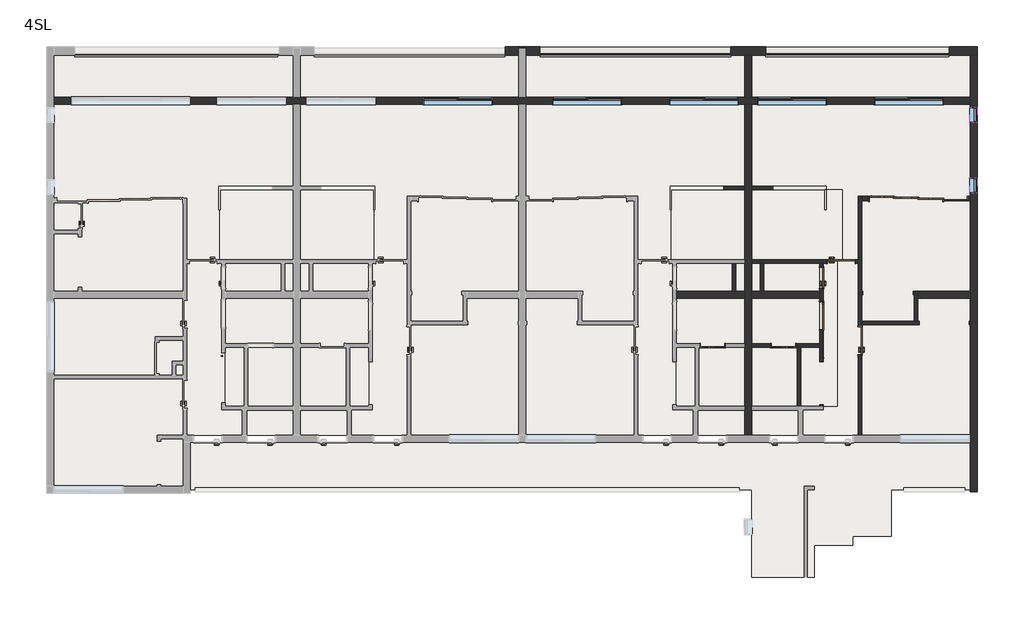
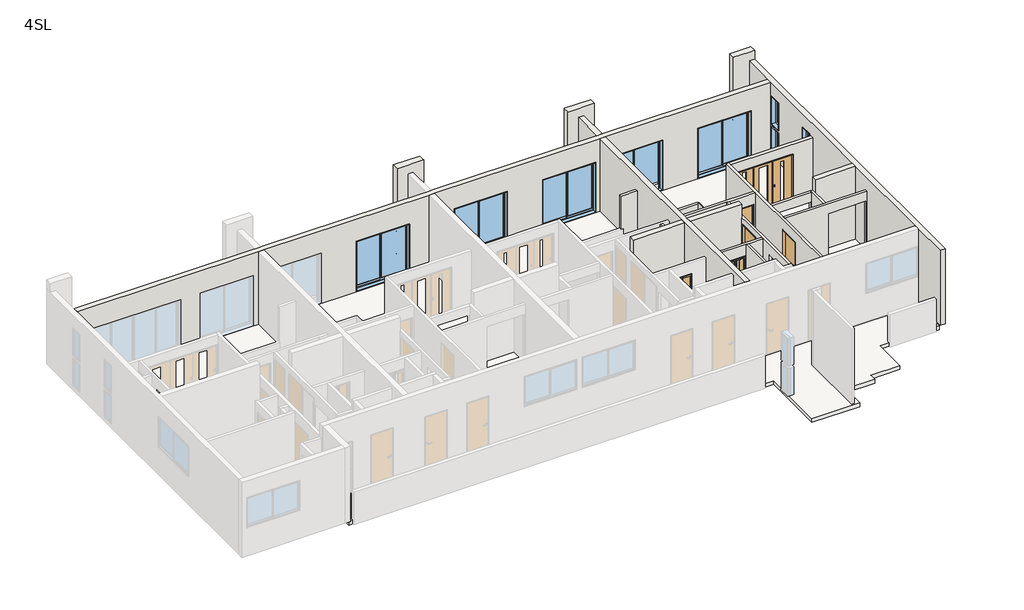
# One storey, part 3 of 3: 25 walls, 13 slabs, 9 windows, 7 doors, 4 railings, 2 plates.
"""IFC4 building model written with IfcOpenShell, lengths in millimetres."""

from ifc_helpers import new_model, si_unit, frame, origin, place, context, project, spatial, polyline, outline, extrude, faceted_brep, transform, mapped, element, save
from components import door_c7dcdbed, door_8f2de950, door_3b96e66a, door_6eb1cc95, door_aabc7979, door_3f60c47c, door_31a51f76, system_panel_37aab131, system_panel_3b8cd947, railing_b6dd94c7, railing_77e44f91, railing_64f1176f, railing_37b0c0b0, window_4c3e1407, window_5dc29a3f, window_ec430ee0, window_a2a98c4b, w0450_h1100_93ba837a, w0450_h1100_e5a89885

model = new_model("IFC4")

# Units and contexts
model_context = context("Model", 3, world=origin())
ifc_project = project(units=[si_unit("LENGTHUNIT", "METRE", prefix="MILLI")], contexts=[model_context])

# Site, building, storey
site = spatial("IfcSite", under=ifc_project)
building = spatial("IfcBuilding", under=site)
storey = spatial("IfcBuildingStorey", under=building, Name="4SL", Elevation=10000.0)

# Doors
placement = place(None, origin())
door_shape = door_c7dcdbed(model_context)
element("IfcDoor", 1, ObjectType="木製_片開き_フラッシュ : WD-2 w600h2000", at=placement, inside=storey, context=model_context, shape_type="MappedRepresentation", body=[
    mapped(door_shape, transform((11454.3805905, 3696.254513, 10210.0), x_axis=(0.0, 1.0, 0.0), y_axis=(-1.0, 0.0, 0.0), z_axis=(0.0, 0.0, 1.0))),
])
door_2_shape = door_8f2de950(model_context)
element("IfcDoor", 2, ObjectType="木製_片開き_フラッシュ : WD-1\u3000w800h2000", at=placement, inside=storey, context=model_context, shape_type="MappedRepresentation", body=[
    mapped(door_2_shape, transform((12554.3805905, 1900.2598658, 10060.0), x_axis=(0.0, 1.0, 0.0), y_axis=(-1.0, 0.0, 0.0), z_axis=(0.0, 0.0, 1.0))),
])
door_3_shape = door_3b96e66a(model_context)
element("IfcDoor", 3, ObjectType="木製_片開き_フラッシュ : WD-1\u3000w800h2000", at=placement, inside=storey, context=model_context, shape_type="MappedRepresentation", body=[
    mapped(door_3_shape, transform((12014.3805905, 4160.2598658, 10000.0), x_axis=(1.0, 0.0, 0.0), y_axis=(0.0, 1.0, 0.0), z_axis=(0.0, 0.0, 1.0))),
])
door_4_shape = door_6eb1cc95(model_context)
element("IfcDoor", 4, ObjectType="木製_折戸2枚_フラッシュ(UB) : UB-1 w600h2000", at=placement, inside=storey, context=model_context, shape_type="MappedRepresentation", body=[
    mapped(door_4_shape, transform((8344.3805905, 1760.2598658, 10000.0), x_axis=(1.0, 0.0, 0.0), y_axis=(0.0, 1.0, 0.0), z_axis=(0.0, 0.0, 1.0))),
])
door_5_shape = door_aabc7979(model_context)
element("IfcDoor", 5, ObjectType="木製_折戸2枚_フラッシュ(UB) : UB-1 w600h2000", at=placement, inside=storey, context=model_context, shape_type="MappedRepresentation", body=[
    mapped(door_5_shape, transform((10364.3805905, 1760.2598658, 10000.0), x_axis=(-1.0, 0.0, 0.0), y_axis=(0.0, -1.0, 0.0), z_axis=(0.0, 0.0, 1.0))),
])
door_6_shape = door_3f60c47c(model_context)
element("IfcDoor", 6, ObjectType="木製_片引き_フラッシュ : WD-4 w800h2000", at=placement, inside=storey, context=model_context, shape_type="MappedRepresentation", body=[
    mapped(door_6_shape, transform((11454.3805905, 2610.719009, 10210.0), x_axis=(0.0, -1.0, 0.0), y_axis=(1.0, 0.0, 0.0), z_axis=(0.0, 0.0, 1.0))),
])
door_7_shape = door_31a51f76(model_context)
element("IfcDoor", 7, ObjectType="木製_片引き3枚_フラッシュ2 : WD-9 w2100h2000", at=placement, inside=storey, context=model_context, shape_type="MappedRepresentation", body=[
    mapped(door_7_shape, transform((13879.9160944, 5960.2598658, 10060.0), x_axis=(1.0, 0.0, 0.0), y_axis=(0.0, 1.0, 0.0), z_axis=(0.0, 0.0, 1.0))),
])

# Plates
system_panel_shape = system_panel_37aab131(model_context)
element("IfcPlate", 8, ObjectType="システム パネル : System Panel", at=placement, inside=storey, context=model_context, shape_type="MappedRepresentation", body=[
    mapped(system_panel_shape, transform((6129.3805905, 10097.7598658, 10000.0), x_axis=(1.0, 0.0, 0.0), y_axis=(0.0, 1.0, 0.0), z_axis=(0.0, 0.0, 1.0))),
])
system_panel_2_shape = system_panel_3b8cd947(model_context)
element("IfcPlate", 9, ObjectType="システム パネル : System Panel", at=placement, inside=storey, context=model_context, shape_type="MappedRepresentation", body=[
    mapped(system_panel_2_shape, transform((12479.3805905, 10097.7598658, 10000.0), x_axis=(-1.0, 0.0, 0.0), y_axis=(0.0, -1.0, 0.0), z_axis=(0.0, 0.0, 1.0))),
])

# Railings
railing_shape = railing_b6dd94c7(model_context)
element("IfcRailing", 10, ObjectType="バルコニー手摺", at=placement, inside=storey, context=model_context, shape_type="MappedRepresentation", body=[
    mapped(railing_shape, transform((0.0, 0.0, 0.0), x_axis=(1.0, 0.0, 0.0), y_axis=(0.0, 1.0, 0.0), z_axis=(0.0, 0.0, 1.0))),
])
railing_2_shape = railing_77e44f91(model_context)
element("IfcRailing", 11, ObjectType="バルコニー手摺", at=placement, inside=storey, context=model_context, shape_type="MappedRepresentation", body=[
    mapped(railing_2_shape, transform((0.0, 0.0, 0.0), x_axis=(1.0, 0.0, 0.0), y_axis=(0.0, 1.0, 0.0), z_axis=(0.0, 0.0, 1.0))),
])
railing_3_shape = railing_64f1176f(model_context)
element("IfcRailing", 12, ObjectType="バルコニー手摺", at=placement, inside=storey, context=model_context, shape_type="MappedRepresentation", body=[
    mapped(railing_3_shape, transform((0.0, 0.0, 0.0), x_axis=(1.0, 0.0, 0.0), y_axis=(0.0, 1.0, 0.0), z_axis=(0.0, 0.0, 1.0))),
])
railing_4_shape = railing_37b0c0b0(model_context)
element("IfcRailing", 13, ObjectType="バルコニー手摺", at=placement, inside=storey, context=model_context, shape_type="MappedRepresentation", body=[
    mapped(railing_4_shape, transform((0.0, 0.0, 0.0), x_axis=(1.0, 0.0, 0.0), y_axis=(0.0, 1.0, 0.0), z_axis=(0.0, 0.0, 1.0))),
])

# Slabs
element("IfcSlab", 14, ObjectType="SCON150", at=placement, inside=storey, context=model_context, shape_type="SweptSolid", body=[
    extrude(outline(polyline([(-10495.6194095, 10159.9866207), (-3645.6194095, 10159.9866207), (-3645.6194095, 8860.2598658), (-10495.6194095, 8860.2598658), (-10495.6194095, 10159.9866207)])), frame((0.0, 0.0, 9750.0), z_axis=(0.0, 0.0, 1.0), x_axis=(1.0, 0.0, 0.0)), (0.0, 0.0, 1.0), 150.0),
])
element("IfcSlab", 15, ObjectType="SCON150", at=placement, inside=storey, context=model_context, shape_type="SweptSolid", body=[
    extrude(outline(polyline([(15704.3805905, 8860.2598658), (9454.3805905, 8860.2598658), (9454.3805905, 10159.9866207), (15704.3805905, 10159.9866207), (15704.3805905, 8860.2598658)])), frame((0.0, 0.0, 9750.0), z_axis=(0.0, 0.0, 1.0), x_axis=(1.0, 0.0, 0.0)), (0.0, 0.0, 1.0), 150.0),
])
element("IfcSlab", 16, ObjectType="SCON150+100", at=placement, inside=storey, context=model_context, shape_type="SweptSolid", body=[
    extrude(outline(polyline([(-10495.6194095, 8860.2598658), (-3645.6194095, 8860.2598658), (-3645.6194095, 6215.254513), (-5745.6194095, 6215.254513), (-5745.6194095, 4210.2598658), (-5595.6194095, 4210.2598658), (-5595.6194095, 30.2598658), (-3645.6194095, 30.2598658), (-3645.6194095, -809.7401342), (-6795.6194095, -809.7401342), (-6795.6194095, -2259.7401342), (-10495.6194095, -2259.7401342), (-10495.6194095, 8860.2598658)])), frame((0.0, 0.0, 9850.0), z_axis=(0.0, 0.0, 1.0), x_axis=(1.0, 0.0, 0.0)), (0.0, 0.0, 1.0), 250.0),
])
element("IfcSlab", 17, ObjectType="SCON150+210", at=placement, inside=storey, context=model_context, shape_type="SweptSolid", body=[
    extrude(outline(polyline([(-5745.6194095, 6215.254513), (-3645.6194095, 6215.254513), (-3645.6194095, 30.2598658), (-5595.6194095, 30.2598658), (-5595.6194095, 4210.2598658), (-5745.6194095, 4210.2598658), (-5745.6194095, 6215.254513)])), frame((0.0, 0.0, 9850.0), z_axis=(0.0, 0.0, 1.0), x_axis=(1.0, 0.0, 0.0)), (0.0, 0.0, 1.0), 360.0),
])
element("IfcSlab", 18, ObjectType="SCON150+100", at=placement, inside=storey, context=model_context, shape_type="SweptSolid", body=[
    extrude(outline(polyline([(2804.3805905, 8860.2598658), (2804.3805905, -809.7401342), (-3445.6194095, -809.7401342), (-3445.6194095, 30.2598658), (-1495.6194095, 30.2598658), (-1495.6194095, 4210.2598658), (-1345.6194095, 4210.2598658), (-1345.6194095, 6215.254513), (-3445.6194095, 6215.254513), (-3445.6194095, 8860.2598658), (2804.3805905, 8860.2598658)])), frame((0.0, 0.0, 9850.0), z_axis=(0.0, 0.0, 1.0), x_axis=(1.0, 0.0, 0.0)), (0.0, 0.0, 1.0), 250.0),
])
element("IfcSlab", 19, ObjectType="SCON150+210", at=placement, inside=storey, context=model_context, shape_type="SweptSolid", body=[
    extrude(outline(polyline([(-1345.6194095, 6215.254513), (-1345.6194095, 4210.2598658), (-1495.6194095, 4210.2598658), (-1495.6194095, 30.2598658), (-3445.6194095, 30.2598658), (-3445.6194095, 6215.254513), (-1345.6194095, 6215.254513)])), frame((0.0, 0.0, 9850.0), z_axis=(0.0, 0.0, 1.0), x_axis=(1.0, 0.0, 0.0)), (0.0, 0.0, 1.0), 360.0),
])
element("IfcSlab", 20, ObjectType="SCON150+100", at=placement, inside=storey, context=model_context, shape_type="SweptSolid", body=[
    extrude(outline(polyline([(3004.3805905, 8760.2598658), (9254.3805905, 8760.2598658), (9254.3805905, 6215.254513), (7154.3805905, 6215.254513), (7154.3805905, 4210.2598658), (7304.3805905, 4210.2598658), (7304.3805905, 30.2598658), (9254.3805905, 30.2598658), (9254.3805905, -809.7401342), (3004.3805905, -809.7401342), (3004.3805905, 8760.2598658)])), frame((0.0, 0.0, 9850.0), z_axis=(0.0, 0.0, 1.0), x_axis=(1.0, 0.0, 0.0)), (0.0, 0.0, 1.0), 250.0),
])
element("IfcSlab", 21, ObjectType="SCON150+210", at=placement, inside=storey, context=model_context, shape_type="SweptSolid", body=[
    extrude(outline(polyline([(7154.3805905, 6215.254513), (9254.3805905, 6215.254513), (9254.3805905, 30.2598658), (7304.3805905, 30.2598658), (7304.3805905, 4210.2598658), (7154.3805905, 4210.2598658), (7154.3805905, 6215.254513)])), frame((0.0, 0.0, 9850.0), z_axis=(0.0, 0.0, 1.0), x_axis=(1.0, 0.0, 0.0)), (0.0, 0.0, 1.0), 360.0),
])
element("IfcSlab", 22, ObjectType="SCON150+100", at=placement, inside=storey, context=model_context, shape_type="SweptSolid", body=[
    extrude(outline(polyline([(15704.3805905, -809.7401342), (9454.3805905, -809.7401342), (9454.3805905, 30.2598658), (11904.3805905, 30.2598658), (11904.3805905, 4210.2598658), (12054.3805905, 4210.2598658), (12054.3805905, 6215.254513), (9454.3805905, 6215.254513), (9454.3805905, 8760.2598658), (15704.3805905, 8760.2598658), (15704.3805905, -809.7401342)])), frame((0.0, 0.0, 9850.0), z_axis=(0.0, 0.0, 1.0), x_axis=(1.0, 0.0, 0.0)), (0.0, 0.0, 1.0), 250.0),
])
element("IfcSlab", 23, ObjectType="SCON150+210", at=placement, inside=storey, context=model_context, shape_type="SweptSolid", body=[
    extrude(outline(polyline([(12054.3805905, 6215.254513), (12054.3805905, 4210.2598658), (11904.3805905, 4210.2598658), (11904.3805905, 30.2598658), (9454.3805905, 30.2598658), (9454.3805905, 6215.254513), (12054.3805905, 6215.254513)])), frame((0.0, 0.0, 9850.0), z_axis=(0.0, 0.0, 1.0), x_axis=(1.0, 0.0, 0.0)), (0.0, 0.0, 1.0), 360.0),
])
element("IfcSlab", 24, ObjectType="SCON150", at=placement, inside=storey, context=model_context, shape_type="SweptSolid", body=[
    extrude(outline(polyline([(-6595.6194095, -1009.7401342), (15704.3805905, -1009.7401342), (15704.3805905, -2359.7401342), (13454.3805905, -2359.7401342), (13454.3805905, -3689.7401342), (12354.3805905, -3689.7401342), (12354.3805905, -3949.7401342), (11254.3805905, -3949.7401342), (11254.3805905, -4869.7401342), (9454.3805905, -4869.7401342), (9454.3805905, -2359.7401342), (-6595.6194095, -2359.7401342), (-6595.6194095, -1009.7401342)])), frame((0.0, 0.0, 9800.0), z_axis=(0.0, 0.0, 1.0), x_axis=(1.0, 0.0, 0.0)), (0.0, 0.0, 1.0), 150.0),
])
element("IfcSlab", 25, ObjectType="SCON150", at=placement, inside=storey, context=model_context, shape_type="SweptSolid", body=[
    extrude(outline(polyline([(3004.3805905, 10159.9866207), (9254.3805905, 10159.9866207), (9254.3805905, 8860.2598658), (3004.3805905, 8860.2598658), (3004.3805905, 10159.9866207)])), frame((0.0, 0.0, 9750.0), z_axis=(0.0, 0.0, 1.0), x_axis=(1.0, 0.0, 0.0)), (0.0, 0.0, 1.0), 150.0),
])
element("IfcSlab", 26, ObjectType="SCON150", at=placement, inside=storey, context=model_context, shape_type="SweptSolid", body=[
    extrude(outline(polyline([(2804.3805905, 10159.9866207), (2804.3805905, 8860.2598658), (-3445.6194095, 8860.2598658), (-3445.6194095, 10159.9866207), (2804.3805905, 10159.9866207)])), frame((0.0, 0.0, 9800.0), z_axis=(0.0, 0.0, 1.0), x_axis=(1.0, 0.0, 0.0)), (0.0, 0.0, 1.0), 150.0),
])

# Walls
element("IfcWall", 27, ObjectType="(F)30", at=placement, inside=storey, context=model_context, shape_type="Brep", body=[
    faceted_brep([(11553.8805905, 6215.254513, 10060.0), (11553.8805905, 5645.254513, 10060.0), (11553.8805905, 5645.254513, 11120.0), (11553.8805905, 6215.254513, 11120.0), (11583.8805905, 6215.254513, 10060.0), (11583.8805905, 6215.254513, 11060.0), (11583.8805905, 6215.254513, 11120.0), (11583.8805905, 5645.254513, 11120.0), (11583.8805905, 5645.254513, 10060.0)], [[[0, 1, 2, 3]], [[4, 5, 6, 7, 8]], [[1, 0, 4, 8]], [[2, 1, 8, 7]], [[3, 2, 7, 6]], [[0, 3, 6, 5, 4]]]),
])
element("IfcWall", 28, ObjectType="(L)100", at=placement, inside=storey, context=model_context, shape_type="SweptSolid", body=[
    extrude(outline(polyline([(9254.3805905, 6215.254513), (8654.3805905, 6215.254513), (8654.3805905, 6315.254513), (9254.3805905, 6315.254513), (9254.3805905, 6215.254513)])), frame((0.0, 0.0, 10000.0), z_axis=(0.0, 0.0, 1.0), x_axis=(1.0, 0.0, 0.0)), (0.0, 0.0, 1.0), 2400.0),
])
element("IfcWall", 29, ObjectType="(L)100", at=placement, inside=storey, context=model_context, shape_type="SweptSolid", body=[
    extrude(outline(polyline([(8904.3805905, 3310.2598658), (8904.3805905, 4110.2598658), (9004.3805905, 4110.2598658), (9004.3805905, 3310.2598658), (8904.3805905, 3310.2598658)])), frame((0.0, 0.0, 10000.0), z_axis=(0.0, 0.0, 1.0), x_axis=(1.0, 0.0, 0.0)), (0.0, 0.0, 1.0), 2460.0),
])
element("IfcWall", 30, ObjectType="(L)100", at=placement, inside=storey, context=model_context, shape_type="Brep", body=[
    faceted_brep([(12504.3805905, 1480.2598658, 12080.0), (12504.3805905, 1480.2598658, 10060.0), (12504.3805905, -809.7401342, 10060.0), (12504.3805905, -809.7401342, 12460.0), (12504.3805905, 4110.2598658, 12460.0), (12504.3805905, 4210.2598658, 12460.0), (12504.3805905, 6022.7598658, 12460.0), (12504.3805905, 6022.7598658, 10060.0), (12504.3805905, 2320.2598658, 10060.0), (12504.3805905, 2320.2598658, 12080.0), (12604.3805905, -809.7401342, 10060.0), (12604.3805905, 1480.2598658, 10060.0), (12604.3805905, 1480.2598658, 12080.0), (12604.3805905, 2320.2598658, 12080.0), (12604.3805905, 2320.2598658, 10060.0), (12604.3805905, 2360.2598658, 10060.0), (12604.3805905, 2460.2598658, 10060.0), (12604.3805905, 5897.7598658, 10060.0), (12604.3805905, 6022.7598658, 10060.0), (12604.3805905, 6022.7598658, 12460.0), (12604.3805905, 5897.7598658, 12460.0), (12604.3805905, 3310.2598658, 12460.0), (12604.3805905, 3210.2598658, 12460.0), (12604.3805905, 2460.2598658, 12460.0), (12604.3805905, 2360.2598658, 12460.0), (12604.3805905, -809.7401342, 12460.0)], [[[0, 1, 2, 3, 4, 5, 6, 7, 8, 9]], [[10, 11, 12, 13, 14, 15, 16, 17, 18, 19, 20, 21, 22, 23, 24, 25]], [[2, 1, 11, 10]], [[8, 7, 18, 17, 16, 15, 14]], [[6, 5, 4, 3, 25, 24, 23, 22, 21, 20, 19]], [[7, 6, 19, 18]], [[3, 2, 10, 25]], [[14, 13, 9, 8]], [[12, 11, 1, 0]], [[13, 12, 0, 9]]]),
])
element("IfcWall", 31, ObjectType="(L)100", at=placement, inside=storey, context=model_context, shape_type="Brep", body=[
    faceted_brep([(15704.3805905, 2460.2598658, 10060.0), (15684.3805905, 2460.2598658, 10060.0), (15684.3805905, 2460.2598658, 12080.0), (14244.3805905, 2460.2598658, 12080.0), (14244.3805905, 2460.2598658, 10060.0), (12604.3805905, 2460.2598658, 10060.0), (12604.3805905, 2460.2598658, 12460.0), (14104.3805905, 2460.2598658, 12460.0), (14204.3805905, 2460.2598658, 12460.0), (15704.3805905, 2460.2598658, 12460.0), (15684.3805905, 2360.2598658, 12080.0), (15684.3805905, 2360.2598658, 10060.0), (15704.3805905, 2360.2598658, 10060.0), (15704.3805905, 2360.2598658, 12460.0), (12604.3805905, 2360.2598658, 12460.0), (12604.3805905, 2360.2598658, 10060.0), (14244.3805905, 2360.2598658, 10060.0), (14244.3805905, 2360.2598658, 12080.0)], [[[0, 1, 2, 3, 4, 5, 6, 7, 8, 9]], [[10, 11, 12, 13, 14, 15, 16, 17]], [[12, 11, 1, 0]], [[16, 15, 5, 4]], [[9, 8, 7, 6, 14, 13]], [[0, 9, 13, 12]], [[6, 5, 15, 14]], [[4, 3, 17, 16]], [[2, 1, 11, 10]], [[3, 2, 10, 17]]]),
])
element("IfcWall", 32, ObjectType="(L)100", at=placement, inside=storey, context=model_context, shape_type="Brep", body=[
    faceted_brep([(14104.3805905, 3310.2598658, 10000.0), (14104.3805905, 3210.2598658, 10000.0), (14104.3805905, 2460.2598658, 10000.0), (14104.3805905, 2460.2598658, 12460.0), (14104.3805905, 3210.2598658, 12460.0), (14104.3805905, 3310.2598658, 12460.0), (14204.3805905, 3310.2598658, 10000.0), (14204.3805905, 3310.2598658, 12460.0), (14204.3805905, 2460.2598658, 12460.0), (14204.3805905, 2460.2598658, 10000.0), (14204.3805905, 3110.2598658, 10000.0)], [[[0, 1, 2, 3, 4, 5]], [[6, 7, 8, 9, 10]], [[2, 1, 0, 6, 10, 9]], [[5, 4, 3, 8, 7]], [[0, 5, 7, 6]], [[3, 2, 9, 8]]]),
])
element("IfcWall", 33, ObjectType="(L)100", at=placement, inside=storey, context=model_context, shape_type="Brep", body=[
    faceted_brep([(11504.3805905, 4110.2598658, 12460.0), (11504.3805905, 30.2598658, 12460.0), (11504.3805905, 30.2598658, 10060.0), (11504.3805905, 60.2598658, 10060.0), (11504.3805905, 60.2598658, 12080.0), (11504.3805905, 1300.2598658, 12080.0), (11504.3805905, 1300.2598658, 10060.0), (11504.3805905, 4110.2598658, 10060.0), (11504.3805905, 1396.254513, 12230.0), (11504.3805905, 3036.254513, 12230.0), (11504.3805905, 3036.254513, 10210.0), (11504.3805905, 1396.254513, 10210.0), (11504.3805905, 4016.254513, 12230.0), (11504.3805905, 4016.254513, 10210.0), (11504.3805905, 3376.254513, 10210.0), (11504.3805905, 3376.254513, 12230.0), (11404.3805905, 30.2598658, 12460.0), (11404.3805905, 1710.2598658, 12460.0), (11404.3805905, 1810.2598658, 12460.0), (11404.3805905, 4110.2598658, 12460.0), (11404.3805905, 4110.2598658, 10060.0), (11404.3805905, 1300.2598658, 10060.0), (11404.3805905, 1300.2598658, 12080.0), (11404.3805905, 60.2598658, 12080.0), (11404.3805905, 60.2598658, 10060.0), (11404.3805905, 30.2598658, 10060.0), (11404.3805905, 3036.254513, 12230.0), (11404.3805905, 2196.254513, 12230.0), (11404.3805905, 2196.254513, 10210.0), (11404.3805905, 3036.254513, 10210.0), (11404.3805905, 4016.254513, 10210.0), (11404.3805905, 4016.254513, 12230.0), (11404.3805905, 3376.254513, 12230.0), (11404.3805905, 3376.254513, 10210.0), (11474.3805905, 1396.254513, 12230.0), (11474.3805905, 2196.254513, 12230.0), (11474.3805905, 2196.254513, 10210.0), (11474.3805905, 1396.254513, 10210.0)], [[[0, 1, 2, 3, 4, 5, 6, 7], [8, 9, 10, 11], [12, 13, 14, 15]], [[16, 17, 18, 19, 20, 21, 22, 23, 24, 25], [26, 27, 28, 29], [30, 31, 32, 33]], [[20, 7, 6, 21]], [[2, 25, 24, 3]], [[1, 0, 19, 18, 17, 16]], [[0, 7, 20, 19]], [[2, 1, 16, 25]], [[5, 22, 21, 6]], [[23, 4, 3, 24]], [[22, 5, 4, 23]], [[34, 35, 27, 26, 9, 8]], [[9, 26, 29, 10]], [[36, 37, 11, 10, 29, 28]], [[35, 36, 28, 27]], [[35, 34, 37, 36]], [[37, 34, 8, 11]], [[12, 31, 30, 13]], [[13, 30, 33, 14]], [[14, 33, 32, 15]], [[31, 12, 15, 32]]]),
])
element("IfcWall", 34, ObjectType="(L)100", at=placement, inside=storey, context=model_context, shape_type="SweptSolid", body=[
    extrude(outline(polyline([(9454.3805905, 6315.254513), (10054.3805905, 6315.254513), (10054.3805905, 6215.254513), (9454.3805905, 6215.254513), (9454.3805905, 6315.254513)])), frame((0.0, 0.0, 10000.0), z_axis=(0.0, 0.0, 1.0), x_axis=(1.0, 0.0, 0.0)), (0.0, 0.0, 1.0), 2400.0),
])
element("IfcWall", 35, ObjectType="(L)100", at=placement, inside=storey, context=model_context, shape_type="Brep", body=[
    faceted_brep([(9979.3805905, 6215.254513, 10060.0), (11553.8805905, 6215.254513, 10060.0), (11583.8805905, 6215.254513, 10060.0), (11583.8805905, 6215.254513, 11060.0), (9979.3805905, 6215.254513, 11060.0), (9979.3805905, 6315.254513, 10060.0), (9979.3805905, 6315.254513, 11060.0), (11583.8805905, 6315.254513, 11060.0), (11583.8805905, 6315.254513, 10060.0)], [[[0, 1, 2, 3, 4]], [[5, 6, 7, 8]], [[2, 1, 0, 5, 8]], [[4, 3, 7, 6]], [[0, 4, 6, 5]], [[3, 2, 8, 7]]]),
])
element("IfcWall", 36, ObjectType="(L)100", at=placement, inside=storey, context=model_context, shape_type="SweptSolid", body=[
    extrude(outline(polyline([(9704.3805905, 3310.2598658), (9704.3805905, 4110.2598658), (9804.3805905, 4110.2598658), (9804.3805905, 3310.2598658), (9704.3805905, 3310.2598658)])), frame((0.0, 0.0, 10000.0), z_axis=(0.0, 0.0, 1.0), x_axis=(1.0, 0.0, 0.0)), (0.0, 0.0, 1.0), 2460.0),
])
element("IfcWall", 37, ObjectType="(L)100", at=placement, inside=storey, context=model_context, shape_type="Brep", body=[
    faceted_brep([(10734.3805905, 1710.2598658, 12020.0), (10734.3805905, 1710.2598658, 10000.0), (10764.3805905, 1710.2598658, 10000.0), (10864.3805905, 1710.2598658, 10000.0), (11404.3805905, 1710.2598658, 10000.0), (11404.3805905, 1710.2598658, 12460.0), (10864.3805905, 1710.2598658, 12460.0), (10764.3805905, 1710.2598658, 12460.0), (9454.3805905, 1710.2598658, 12460.0), (9454.3805905, 1710.2598658, 10000.0), (9994.3805905, 1710.2598658, 10000.0), (9994.3805905, 1710.2598658, 12020.0), (11404.3805905, 1810.2598658, 10000.0), (10734.3805905, 1810.2598658, 10000.0), (10734.3805905, 1810.2598658, 12020.0), (9994.3805905, 1810.2598658, 12020.0), (9994.3805905, 1810.2598658, 10000.0), (9454.3805905, 1810.2598658, 10000.0), (9454.3805905, 1810.2598658, 12460.0), (11404.3805905, 1810.2598658, 12460.0)], [[[0, 1, 2, 3, 4, 5, 6, 7, 8, 9, 10, 11]], [[12, 13, 14, 15, 16, 17, 18, 19]], [[4, 3, 2, 1, 13, 12]], [[10, 9, 17, 16]], [[8, 7, 6, 5, 19, 18]], [[9, 8, 18, 17]], [[5, 4, 12, 19]], [[16, 15, 11, 10]], [[14, 13, 1, 0]], [[15, 14, 0, 11]]]),
])
element("IfcWall", 38, ObjectType="(L)100", at=placement, inside=storey, context=model_context, shape_type="Brep", body=[
    faceted_brep([(9454.3805905, 4110.2598658, 10000.0), (9704.3805905, 4110.2598658, 10000.0), (9804.3805905, 4110.2598658, 10000.0), (11594.3805905, 4110.2598658, 10000.0), (11594.3805905, 4110.2598658, 12020.0), (12434.3805905, 4110.2598658, 12020.0), (12434.3805905, 4110.2598658, 10000.0), (12504.3805905, 4110.2598658, 10000.0), (12504.3805905, 4110.2598658, 12460.0), (11504.3805905, 4110.2598658, 12460.0), (11404.3805905, 4110.2598658, 12460.0), (9804.3805905, 4110.2598658, 12460.0), (9704.3805905, 4110.2598658, 12460.0), (9454.3805905, 4110.2598658, 12460.0), (11594.3805905, 4210.2598658, 12020.0), (11594.3805905, 4210.2598658, 10000.0), (9454.3805905, 4210.2598658, 10000.0), (9454.3805905, 4210.2598658, 12460.0), (12504.3805905, 4210.2598658, 12460.0), (12504.3805905, 4210.2598658, 10000.0), (12434.3805905, 4210.2598658, 10000.0), (12434.3805905, 4210.2598658, 12020.0)], [[[0, 1, 2, 3, 4, 5, 6, 7, 8, 9, 10, 11, 12, 13]], [[14, 15, 16, 17, 18, 19, 20, 21]], [[16, 15, 3, 2, 1, 0]], [[20, 19, 7, 6]], [[13, 12, 11, 10, 9, 8, 18, 17]], [[0, 13, 17, 16]], [[8, 7, 19, 18]], [[6, 5, 21, 20]], [[4, 3, 15, 14]], [[5, 4, 14, 21]]]),
])
element("IfcWall", 39, ObjectType="(L)100", at=placement, inside=storey, context=model_context, shape_type="SweptSolid", body=[
    extrude(outline(polyline([(10000.0, 12604.3805905), (10000.0, 14104.3805905), (12460.0, 14104.3805905), (12460.0, 12604.3805905), (10000.0, 12604.3805905)]), holes=[polyline([(10060.0, 14074.3805905), (10060.0, 12634.3805905), (12080.0, 12634.3805905), (12080.0, 14074.3805905), (10060.0, 14074.3805905)])]), frame((0.0, 3210.2598658, 0.0), z_axis=(0.0, 1.0, 0.0), x_axis=(0.0, 0.0, 1.0)), (0.0, 0.0, 1.0), 100.0),
])
element("IfcWall", 40, ObjectType="(L)100", at=placement, inside=storey, context=model_context, shape_type="SweptSolid", body=[
    extrude(outline(polyline([(10764.3805905, 30.2598658), (10764.3805905, 1710.2598658), (10864.3805905, 1710.2598658), (10864.3805905, 30.2598658), (10764.3805905, 30.2598658)])), frame((0.0, 0.0, 10000.0), z_axis=(0.0, 0.0, 1.0), x_axis=(1.0, 0.0, 0.0)), (0.0, 0.0, 1.0), 2460.0),
])
element("IfcWall", 41, ObjectType="(L1)125", at=placement, inside=storey, context=model_context, shape_type="Brep", body=[
    faceted_brep([(15704.3805905, 5897.7598658, 12460.0), (12604.3805905, 5897.7598658, 12460.0), (12604.3805905, 5897.7598658, 10060.0), (12804.3805905, 5897.7598658, 10060.0), (12804.3805905, 5897.7598658, 12080.0), (14944.3805905, 5897.7598658, 12080.0), (14944.3805905, 5897.7598658, 10060.0), (15704.3805905, 5897.7598658, 10060.0), (12604.3805905, 6022.7598658, 12460.0), (15704.3805905, 6022.7598658, 12460.0), (15704.3805905, 6022.7598658, 10060.0), (15644.3805905, 6022.7598658, 10060.0), (15644.3805905, 6022.7598658, 12080.0), (12804.3805905, 6022.7598658, 12080.0), (12804.3805905, 6022.7598658, 10060.0), (12604.3805905, 6022.7598658, 10060.0), (14944.3805905, 5932.7598658, 10060.0), (15644.3805905, 5932.7598658, 10060.0), (15644.3805905, 5932.7598658, 12080.0), (14944.3805905, 5932.7598658, 12080.0)], [[[0, 1, 2, 3, 4, 5, 6, 7]], [[8, 9, 10, 11, 12, 13, 14, 15]], [[10, 7, 6, 16, 17, 11]], [[2, 15, 14, 3]], [[1, 0, 9, 8]], [[0, 7, 10, 9]], [[2, 1, 8, 15]], [[18, 19, 5, 4, 13, 12]], [[13, 4, 3, 14]], [[19, 16, 6, 5]], [[19, 18, 17, 16]], [[17, 18, 12, 11]]]),
])
element("IfcWall", 42, ObjectType="(R)200", at=placement, inside=storey, context=model_context, shape_type="Brep", body=[
    faceted_brep([(15704.3805905, 8860.2598658, 10000.0), (9454.3805905, 8860.2598658, 10000.0), (9254.3805905, 8860.2598658, 10000.0), (3004.3805905, 8860.2598658, 10000.0), (2804.3805905, 8860.2598658, 10000.0), (-3445.6194095, 8860.2598658, 10000.0), (-3645.6194095, 8860.2598658, 10000.0), (-10495.6194095, 8860.2598658, 10000.0), (-10495.6194095, 8860.2598658, 13000.0), (-3645.6194095, 8860.2598658, 13000.0), (-3445.6194095, 8860.2598658, 13000.0), (2804.3805905, 8860.2598658, 13000.0), (3004.3805905, 8860.2598658, 13000.0), (9254.3805905, 8860.2598658, 13000.0), (9454.3805905, 8860.2598658, 13000.0), (15704.3805905, 8860.2598658, 13000.0), (14954.3805905, 8860.2598658, 10120.0), (14954.3805905, 8860.2598658, 12120.0), (12954.3805905, 8860.2598658, 12120.0), (12954.3805905, 8860.2598658, 10120.0), (11614.3805905, 8860.2598658, 10120.0), (11614.3805905, 8860.2598658, 12120.0), (9614.3805905, 8860.2598658, 12120.0), (9614.3805905, 8860.2598658, 10120.0), (5754.3805905, 8860.2598658, 10120.0), (5754.3805905, 8860.2598658, 12120.0), (3754.3805905, 8860.2598658, 12120.0), (3754.3805905, 8860.2598658, 10120.0), (7094.3805905, 8860.2598658, 10120.0), (9094.3805905, 8860.2598658, 10120.0), (9094.3805905, 8860.2598658, 12120.0), (7094.3805905, 8860.2598658, 12120.0), (54.3805905, 8860.2598658, 10120.0), (2054.3805905, 8860.2598658, 10120.0), (2054.3805905, 8860.2598658, 12120.0), (54.3805905, 8860.2598658, 12120.0), (-9994.6785744, 8860.2598658, 10120.0), (-6594.6785744, 8860.2598658, 10120.0), (-6594.6785744, 8860.2598658, 12120.0), (-9994.6785744, 8860.2598658, 12120.0), (-1285.6194095, 8860.2598658, 10120.0), (-1285.6194095, 8860.2598658, 12120.0), (-3285.6194095, 8860.2598658, 12120.0), (-3285.6194095, 8860.2598658, 10120.0), (-5845.6194095, 8860.2598658, 10120.0), (-3845.6194095, 8860.2598658, 10120.0), (-3845.6194095, 8860.2598658, 12120.0), (-5845.6194095, 8860.2598658, 12120.0), (15704.3805905, 8660.2598658, 10000.0), (15704.3805905, 8660.2598658, 13000.0), (9454.3805905, 8660.2598658, 13000.0), (9254.3805905, 8660.2598658, 13000.0), (3004.3805905, 8660.2598658, 13000.0), (2804.3805905, 8660.2598658, 13000.0), (-3445.6194095, 8660.2598658, 13000.0), (-3645.6194095, 8660.2598658, 13000.0), (-10495.6194095, 8660.2598658, 13000.0), (-10495.6194095, 8660.2598658, 10000.0), (-3645.6194095, 8660.2598658, 10000.0), (-3445.6194095, 8660.2598658, 10000.0), (2804.3805905, 8660.2598658, 10000.0), (3004.3805905, 8660.2598658, 10000.0), (9254.3805905, 8660.2598658, 10000.0), (9454.3805905, 8660.2598658, 10000.0), (14954.3805905, 8660.2598658, 10120.0), (12954.3805905, 8660.2598658, 10120.0), (12954.3805905, 8660.2598658, 12120.0), (14954.3805905, 8660.2598658, 12120.0), (11614.3805905, 8660.2598658, 10120.0), (9614.3805905, 8660.2598658, 10120.0), (9614.3805905, 8660.2598658, 12120.0), (11614.3805905, 8660.2598658, 12120.0), (5754.3805905, 8660.2598658, 10120.0), (3754.3805905, 8660.2598658, 10120.0), (3754.3805905, 8660.2598658, 12120.0), (5754.3805905, 8660.2598658, 12120.0), (7094.3805905, 8660.2598658, 10120.0), (7094.3805905, 8660.2598658, 12120.0), (9094.3805905, 8660.2598658, 12120.0), (9094.3805905, 8660.2598658, 10120.0), (54.3805905, 8660.2598658, 10120.0), (54.3805905, 8660.2598658, 12120.0), (2054.3805905, 8660.2598658, 12120.0), (2054.3805905, 8660.2598658, 10120.0), (-9994.6785744, 8660.2598658, 10120.0), (-9994.6785744, 8660.2598658, 12120.0), (-6594.6785744, 8660.2598658, 12120.0), (-6594.6785744, 8660.2598658, 10120.0), (-1285.6194095, 8660.2598658, 10120.0), (-3285.6194095, 8660.2598658, 10120.0), (-3285.6194095, 8660.2598658, 12120.0), (-1285.6194095, 8660.2598658, 12120.0), (-5845.6194095, 8660.2598658, 10120.0), (-5845.6194095, 8660.2598658, 12120.0), (-3845.6194095, 8660.2598658, 12120.0), (-3845.6194095, 8660.2598658, 10120.0)], [[[0, 1, 2, 3, 4, 5, 6, 7, 8, 9, 10, 11, 12, 13, 14, 15], [16, 17, 18, 19], [20, 21, 22, 23], [24, 25, 26, 27], [28, 29, 30, 31], [32, 33, 34, 35], [36, 37, 38, 39], [40, 41, 42, 43], [44, 45, 46, 47]], [[48, 49, 50, 51, 52, 53, 54, 55, 56, 57, 58, 59, 60, 61, 62, 63], [64, 65, 66, 67], [68, 69, 70, 71], [72, 73, 74, 75], [76, 77, 78, 79], [80, 81, 82, 83], [84, 85, 86, 87], [88, 89, 90, 91], [92, 93, 94, 95]], [[7, 6, 5, 4, 3, 2, 1, 0, 48, 63, 62, 61, 60, 59, 58, 57]], [[15, 14, 13, 12, 11, 10, 9, 8, 56, 55, 54, 53, 52, 51, 50, 49]], [[0, 15, 49, 48]], [[8, 7, 57, 56]], [[17, 16, 64, 67]], [[18, 17, 67, 66]], [[19, 18, 66, 65]], [[16, 19, 65, 64]], [[21, 20, 68, 71]], [[22, 21, 71, 70]], [[23, 22, 70, 69]], [[20, 23, 69, 68]], [[25, 24, 72, 75]], [[26, 25, 75, 74]], [[27, 26, 74, 73]], [[24, 27, 73, 72]], [[77, 76, 28, 31]], [[78, 77, 31, 30]], [[79, 78, 30, 29]], [[76, 79, 29, 28]], [[81, 80, 32, 35]], [[82, 81, 35, 34]], [[83, 82, 34, 33]], [[80, 83, 33, 32]], [[85, 84, 36, 39]], [[86, 85, 39, 38]], [[87, 86, 38, 37]], [[84, 87, 37, 36]], [[41, 40, 88, 91]], [[42, 41, 91, 90]], [[43, 42, 90, 89]], [[40, 43, 89, 88]], [[93, 92, 44, 47]], [[94, 93, 47, 46]], [[95, 94, 46, 45]], [[92, 95, 45, 44]]]),
])
element("IfcWall", 43, ObjectType="(R)200", at=placement, inside=storey, context=model_context, shape_type="Brep", body=[
    faceted_brep([(15704.3805905, 10059.9866207, 10000.0), (15704.3805905, 8860.2598658, 10000.0), (15704.3805905, 8660.2598658, 10000.0), (15704.3805905, 3310.2598658, 10000.0), (15704.3805905, 3110.2598658, 10000.0), (15704.3805905, -809.7401342, 10000.0), (15704.3805905, -1009.7401342, 10000.0), (15704.3805905, -2419.7401342, 10000.0), (15704.3805905, -2419.7401342, 13000.0), (15704.3805905, -1009.7401342, 13000.0), (15704.3805905, -809.7401342, 13000.0), (15704.3805905, 3110.2598658, 13000.0), (15704.3805905, 3310.2598658, 13000.0), (15704.3805905, 8660.2598658, 13000.0), (15704.3805905, 8860.2598658, 13000.0), (15704.3805905, 10059.9866207, 13000.0), (15704.3805905, 6560.2491602, 11380.0), (15704.3805905, 6560.2491602, 12480.0), (15704.3805905, 6110.2491602, 12480.0), (15704.3805905, 6110.2491602, 11380.0), (15704.3805905, 6560.2491602, 10180.0), (15704.3805905, 6560.2491602, 11280.0), (15704.3805905, 6110.2491602, 11280.0), (15704.3805905, 6110.2491602, 10180.0), (15704.3805905, 8130.2598658, 11380.0), (15704.3805905, 8580.2598658, 11380.0), (15704.3805905, 8580.2598658, 12480.0), (15704.3805905, 8130.2598658, 12480.0), (15704.3805905, 8130.2598658, 10180.0), (15704.3805905, 8580.2598658, 10180.0), (15704.3805905, 8580.2598658, 11280.0), (15704.3805905, 8130.2598658, 11280.0), (15904.3805905, 10059.9866207, 10000.0), (15904.3805905, 10059.9866207, 13000.0), (15904.3805905, -2419.7401342, 13000.0), (15904.3805905, -2419.7401342, 10000.0), (15904.3805905, 6560.2491602, 11380.0), (15904.3805905, 6110.2491602, 11380.0), (15904.3805905, 6110.2491602, 12480.0), (15904.3805905, 6560.2491602, 12480.0), (15904.3805905, 6560.2491602, 10180.0), (15904.3805905, 6110.2491602, 10180.0), (15904.3805905, 6110.2491602, 11280.0), (15904.3805905, 6560.2491602, 11280.0), (15904.3805905, 8130.2598658, 11380.0), (15904.3805905, 8130.2598658, 12480.0), (15904.3805905, 8580.2598658, 12480.0), (15904.3805905, 8580.2598658, 11380.0), (15904.3805905, 8130.2598658, 10180.0), (15904.3805905, 8130.2598658, 11280.0), (15904.3805905, 8580.2598658, 11280.0), (15904.3805905, 8580.2598658, 10180.0)], [[[0, 1, 2, 3, 4, 5, 6, 7, 8, 9, 10, 11, 12, 13, 14, 15], [16, 17, 18, 19], [20, 21, 22, 23], [24, 25, 26, 27], [28, 29, 30, 31]], [[32, 33, 34, 35], [36, 37, 38, 39], [40, 41, 42, 43], [44, 45, 46, 47], [48, 49, 50, 51]], [[7, 6, 5, 4, 3, 2, 1, 0, 32, 35]], [[8, 7, 35, 34]], [[15, 14, 13, 12, 11, 10, 9, 8, 34, 33]], [[0, 15, 33, 32]], [[17, 16, 36, 39]], [[18, 17, 39, 38]], [[19, 18, 38, 37]], [[16, 19, 37, 36]], [[21, 20, 40, 43]], [[22, 21, 43, 42]], [[23, 22, 42, 41]], [[20, 23, 41, 40]], [[45, 44, 24, 27]], [[46, 45, 27, 26]], [[47, 46, 26, 25]], [[44, 47, 25, 24]], [[49, 48, 28, 31]], [[50, 49, 31, 30]], [[51, 50, 30, 29]], [[48, 51, 29, 28]]]),
])
element("IfcWall", 44, ObjectType="(R)200", at=placement, inside=storey, context=model_context, shape_type="Brep", body=[
    faceted_brep([(9454.3805905, -809.7401342, 13000.0), (9454.3805905, -809.7401342, 10000.0), (9454.3805905, -89.7401342, 10000.0), (9454.3805905, 30.2598658, 10000.0), (9454.3805905, 1710.2598658, 10000.0), (9454.3805905, 1810.2598658, 10000.0), (9454.3805905, 3110.2598658, 10000.0), (9454.3805905, 3310.2598658, 10000.0), (9454.3805905, 4110.2598658, 10000.0), (9454.3805905, 4210.2598658, 10000.0), (9454.3805905, 6215.254513, 10000.0), (9454.3805905, 6315.254513, 10000.0), (9454.3805905, 8660.2598658, 10000.0), (9454.3805905, 8660.2598658, 13000.0), (9454.3805905, 3310.2598658, 13000.0), (9454.3805905, 3110.2598658, 13000.0), (9254.3805905, -809.7401342, 10000.0), (9254.3805905, -809.7401342, 13000.0), (9254.3805905, 3110.2598658, 13000.0), (9254.3805905, 3310.2598658, 13000.0), (9254.3805905, 8660.2598658, 13000.0), (9254.3805905, 8660.2598658, 10000.0), (9254.3805905, 6315.254513, 10000.0), (9254.3805905, 6215.254513, 10000.0), (9254.3805905, 4210.2598658, 10000.0), (9254.3805905, 4110.2598658, 10000.0), (9254.3805905, 3310.2598658, 10000.0), (9254.3805905, 3110.2598658, 10000.0), (9254.3805905, 1810.2598658, 10000.0), (9254.3805905, 1710.2598658, 10000.0), (9254.3805905, 30.2598658, 10000.0), (9254.3805905, -89.7401342, 10000.0)], [[[0, 1, 2, 3, 4, 5, 6, 7, 8, 9, 10, 11, 12, 13, 14, 15]], [[16, 17, 18, 19, 20, 21, 22, 23, 24, 25, 26, 27, 28, 29, 30, 31]], [[1, 16, 31, 30, 29, 28, 27, 26, 25, 24, 23, 22, 21, 12, 11, 10, 9, 8, 7, 6, 5, 4, 3, 2]], [[17, 0, 15, 14, 13, 20, 19, 18]], [[1, 0, 17, 16]], [[13, 12, 21, 20]]]),
    faceted_brep([(9454.3805905, 10059.9866207, 10000.0), (9454.3805905, 10059.9866207, 13000.0), (9454.3805905, 8860.2598658, 13000.0), (9454.3805905, 8860.2598658, 10000.0), (9254.3805905, 10059.9866207, 13000.0), (9254.3805905, 10059.9866207, 10000.0), (9254.3805905, 8860.2598658, 10000.0), (9254.3805905, 8860.2598658, 13000.0)], [[[0, 1, 2, 3]], [[4, 5, 6, 7]], [[5, 0, 3, 6]], [[1, 4, 7, 2]], [[1, 0, 5, 4]], [[3, 2, 7, 6]]]),
])
element("IfcWall", 45, ObjectType="(R)200", at=placement, inside=storey, context=model_context, shape_type="Brep", body=[
    faceted_brep([(14204.3805905, 3110.2598658, 10000.0), (15704.3805905, 3110.2598658, 10000.0), (15704.3805905, 3110.2598658, 13000.0), (14204.3805905, 3110.2598658, 13000.0), (14204.3805905, 3310.2598658, 10000.0), (14204.3805905, 3310.2598658, 12460.0), (14204.3805905, 3310.2598658, 13000.0), (15704.3805905, 3310.2598658, 13000.0), (15704.3805905, 3310.2598658, 10000.0)], [[[0, 1, 2, 3]], [[4, 5, 6, 7, 8]], [[1, 0, 4, 8]], [[3, 2, 7, 6]], [[2, 1, 8, 7]], [[0, 3, 6, 5, 4]]]),
])
element("IfcWall", 46, ObjectType="(R)200", at=placement, inside=storey, context=model_context, shape_type="Brep", body=[
    faceted_brep([(7304.3805905, 3110.2598658, 13000.0), (7304.3805905, 3110.2598658, 10000.0), (9254.3805905, 3110.2598658, 10000.0), (9254.3805905, 3110.2598658, 13000.0), (7304.3805905, 3310.2598658, 10000.0), (7304.3805905, 3310.2598658, 13000.0), (9254.3805905, 3310.2598658, 13000.0), (9254.3805905, 3310.2598658, 10000.0), (9004.3805905, 3310.2598658, 10000.0), (8904.3805905, 3310.2598658, 10000.0)], [[[0, 1, 2, 3]], [[4, 5, 6, 7, 8, 9]], [[1, 4, 9, 8, 7, 2]], [[5, 0, 3, 6]], [[1, 0, 5, 4]], [[3, 2, 7, 6]]]),
    faceted_brep([(11404.3805905, 3110.2598658, 10000.0), (11404.3805905, 3110.2598658, 13000.0), (9454.3805905, 3110.2598658, 13000.0), (9454.3805905, 3110.2598658, 10000.0), (11404.3805905, 3310.2598658, 13000.0), (11404.3805905, 3310.2598658, 10000.0), (9804.3805905, 3310.2598658, 10000.0), (9704.3805905, 3310.2598658, 10000.0), (9454.3805905, 3310.2598658, 10000.0), (9454.3805905, 3310.2598658, 13000.0)], [[[0, 1, 2, 3]], [[4, 5, 6, 7, 8, 9]], [[5, 0, 3, 8, 7, 6]], [[1, 4, 9, 2]], [[1, 0, 5, 4]], [[3, 2, 9, 8]]]),
])
element("IfcWall", 47, ObjectType="(R)200", at=placement, inside=storey, context=model_context, shape_type="SweptSolid", body=[
    extrude(outline(polyline([(8854.3805905, 10084.9866207), (3404.3805905, 10084.9866207), (3404.3805905, 10284.9866207), (8854.3805905, 10284.9866207), (8854.3805905, 10084.9866207)])), frame((0.0, 0.0, 9250.0), z_axis=(0.0, 0.0, 1.0), x_axis=(1.0, 0.0, 0.0)), (0.0, 0.0, 1.0), 750.0),
])
element("IfcWall", 48, ObjectType="(R)200", at=placement, inside=storey, context=model_context, shape_type="SweptSolid", body=[
    extrude(outline(polyline([(15104.3805905, 10084.9866207), (9854.3805905, 10084.9866207), (9854.3805905, 10284.9866207), (15104.3805905, 10284.9866207), (15104.3805905, 10084.9866207)])), frame((0.0, 0.0, 9250.0), z_axis=(0.0, 0.0, 1.0), x_axis=(1.0, 0.0, 0.0)), (0.0, 0.0, 1.0), 750.0),
])
element("IfcWall", 49, ObjectType="(R)250", at=placement, inside=storey, context=model_context, shape_type="Brep", body=[
    faceted_brep([(2404.3805905, 10059.9866207, 10000.0), (3404.3805905, 10059.9866207, 10000.0), (3404.3805905, 10059.9866207, 13350.0), (2404.3805905, 10059.9866207, 13350.0), (2404.3805905, 10059.9866207, 12250.0), (2404.3805905, 10309.9866207, 10000.0), (2404.3805905, 10309.9866207, 13350.0), (3404.3805905, 10309.9866207, 13350.0), (3404.3805905, 10309.9866207, 10000.0), (3404.3805905, 10284.9866207, 13350.0), (3404.3805905, 10084.9866207, 13350.0), (2404.3805905, 10259.9866207, 13350.0)], [[[0, 1, 2, 3, 4]], [[5, 6, 7, 8]], [[1, 0, 5, 8]], [[2, 1, 8, 7, 9, 10]], [[3, 2, 10, 9, 7, 6, 11]], [[0, 4, 3, 11, 6, 5]]]),
])
element("IfcWall", 50, ObjectType="(R)250", at=placement, inside=storey, context=model_context, shape_type="Brep", body=[
    faceted_brep([(8854.3805905, 10059.9866207, 10000.0), (9254.3805905, 10059.9866207, 10000.0), (9454.3805905, 10059.9866207, 10000.0), (9854.3805905, 10059.9866207, 10000.0), (9854.3805905, 10059.9866207, 13350.0), (8854.3805905, 10059.9866207, 13350.0), (8854.3805905, 10309.9866207, 10000.0), (8854.3805905, 10309.9866207, 13350.0), (9854.3805905, 10309.9866207, 13350.0), (9854.3805905, 10309.9866207, 10000.0), (9854.3805905, 10284.9866207, 13350.0), (9854.3805905, 10084.9866207, 13350.0), (8854.3805905, 10284.9866207, 13350.0), (8854.3805905, 10084.9866207, 13350.0)], [[[0, 1, 2, 3, 4, 5]], [[6, 7, 8, 9]], [[3, 2, 1, 0, 6, 9]], [[4, 3, 9, 8, 10, 11]], [[5, 4, 11, 10, 8, 7, 12, 13]], [[0, 5, 13, 12, 7, 6]]]),
])
element("IfcWall", 51, ObjectType="(R)250", at=placement, inside=storey, context=model_context, shape_type="Brep", body=[
    faceted_brep([(15104.3805905, 10059.9866207, 10000.0), (15704.3805905, 10059.9866207, 10000.0), (15904.3805905, 10059.9866207, 10000.0), (15904.3805905, 10059.9866207, 13000.0), (15904.3805905, 10059.9866207, 13350.0), (15704.3805905, 10059.9866207, 13350.0), (15104.3805905, 10059.9866207, 13350.0), (15104.3805905, 10309.9866207, 10000.0), (15104.3805905, 10309.9866207, 13350.0), (15904.3805905, 10309.9866207, 13350.0), (15904.3805905, 10309.9866207, 10000.0), (15104.3805905, 10284.9866207, 13350.0), (15104.3805905, 10084.9866207, 13350.0)], [[[0, 1, 2, 3, 4, 5, 6]], [[7, 8, 9, 10]], [[2, 1, 0, 7, 10]], [[6, 5, 4, 9, 8, 11, 12]], [[0, 6, 12, 11, 8, 7]], [[2, 10, 9, 4, 3]]]),
])

# Windows
window_shape = window_4c3e1407(model_context)
element("IfcWindow", 52, ObjectType="窓-開き-内付 : AW-1' w0450 h1100", at=placement, inside=storey, context=model_context, shape_type="MappedRepresentation", body=[
    mapped(window_shape, transform((15804.3805905, 6335.2491602, 10180.0), x_axis=(0.0, -1.0, 0.0), y_axis=(1.0, 0.0, 0.0), z_axis=(0.0, 0.0, 1.0))),
])
window_2_shape = window_5dc29a3f(model_context)
element("IfcWindow", 53, ObjectType="窓-開き-内付 : AW-1' w0450 h1100", at=placement, inside=storey, context=model_context, shape_type="MappedRepresentation", body=[
    mapped(window_2_shape, transform((15804.3805905, 8355.2598658, 10180.0), x_axis=(0.0, 1.0, 0.0), y_axis=(-1.0, 0.0, 0.0), z_axis=(0.0, 0.0, 1.0))),
])
window_3_shape = window_ec430ee0(model_context)
element("IfcWindow", 54, ObjectType="窓-引違掃出2枚-内付 : AW-3' w2000 h2000", at=placement, inside=storey, context=model_context, shape_type="MappedRepresentation", body=[
    mapped(window_3_shape, transform((13954.3805905, 8760.2598658, 10120.0), x_axis=(-1.0, 0.0, 0.0), y_axis=(0.0, -1.0, 0.0), z_axis=(0.0, 0.0, 1.0))),
])
window_4_shape = window_a2a98c4b(model_context)
element("IfcWindow", 55, ObjectType="窓-引違掃出2枚-内付 : AW-3 w2000 h2000", at=placement, inside=storey, context=model_context, shape_type="MappedRepresentation", body=[
    mapped(window_4_shape, transform((1054.3805905, 8760.2598658, 10120.0), x_axis=(1.0, 0.0, 0.0), y_axis=(0.0, 1.0, 0.0), z_axis=(0.0, 0.0, 1.0))),
])
element("IfcWindow", 56, ObjectType="窓-引違掃出2枚-内付 : AW-3 w2000 h2000", at=placement, inside=storey, context=model_context, shape_type="MappedRepresentation", body=[
    mapped(window_4_shape, transform((8094.3805905, 8760.2598658, 10120.0), x_axis=(1.0, 0.0, 0.0), y_axis=(0.0, 1.0, 0.0), z_axis=(0.0, 0.0, 1.0))),
])
element("IfcWindow", 57, ObjectType="窓-引違掃出2枚-内付 : AW-3 w2000 h2000", at=placement, inside=storey, context=model_context, shape_type="MappedRepresentation", body=[
    mapped(window_3_shape, transform((4754.3805905, 8760.2598658, 10120.0), x_axis=(-1.0, 0.0, 0.0), y_axis=(0.0, -1.0, 0.0), z_axis=(0.0, 0.0, 1.0))),
])
element("IfcWindow", 58, ObjectType="窓-引違掃出2枚-内付 : AW-3 w2000 h2000", at=placement, inside=storey, context=model_context, shape_type="MappedRepresentation", body=[
    mapped(window_3_shape, transform((10614.3805905, 8760.2598658, 10120.0), x_axis=(-1.0, 0.0, 0.0), y_axis=(0.0, -1.0, 0.0), z_axis=(0.0, 0.0, 1.0))),
])
w0450_h1100_shape = w0450_h1100_93ba837a(model_context)
element("IfcWindow", 59, ObjectType="窓-Fix-内付 : w0450 h1100", at=placement, inside=storey, context=model_context, shape_type="MappedRepresentation", body=[
    mapped(w0450_h1100_shape, transform((15804.3805905, 6335.2491602, 10120.0), x_axis=(0.0, -1.0, 0.0), y_axis=(1.0, 0.0, 0.0), z_axis=(0.0, 0.0, 1.0))),
])
w0450_h1100_2_shape = w0450_h1100_e5a89885(model_context)
element("IfcWindow", 60, ObjectType="窓-Fix-内付 : w0450 h1100", at=placement, inside=storey, context=model_context, shape_type="MappedRepresentation", body=[
    mapped(w0450_h1100_2_shape, transform((15804.3805905, 8355.2598658, 10120.0), x_axis=(0.0, 1.0, 0.0), y_axis=(-1.0, 0.0, 0.0), z_axis=(0.0, 0.0, 1.0))),
])

save(model, "model.ifc")
